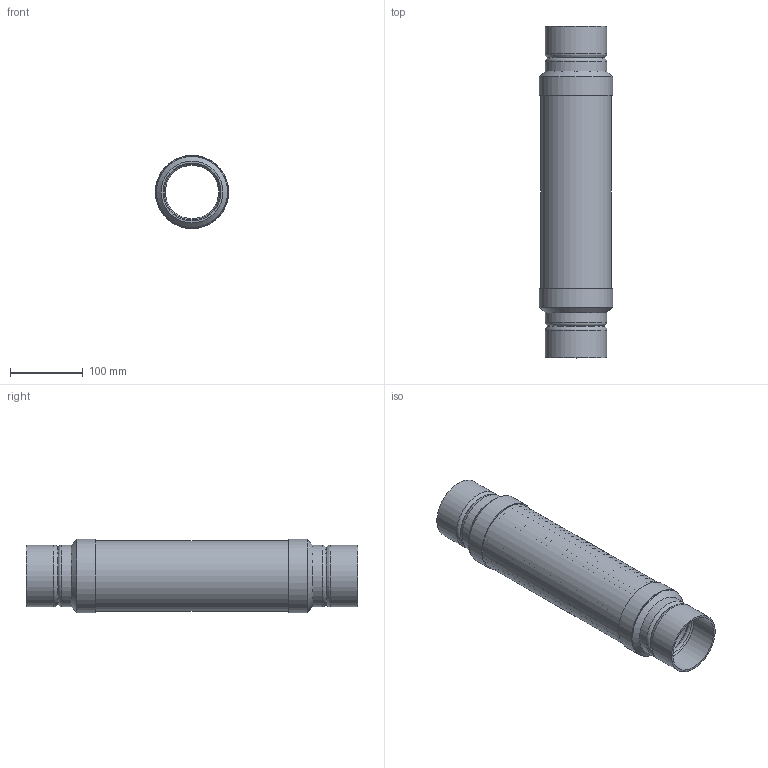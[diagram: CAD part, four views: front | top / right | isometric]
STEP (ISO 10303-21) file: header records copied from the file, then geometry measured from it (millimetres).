
FILE_DESCRIPTION((''),'2;1');
FILE_NAME('C:\2012_Work\Designs\CPSB\CPSB-3x18\CPSB-3x18.stp','2013-08-27T13:23:58',('KShiels'),(''),'Autodesk Inventor 2012','Autodesk Inventor 2012','');
FILE_SCHEMA(('AUTOMOTIVE_DESIGN { 1 0 10303 214 1 1 1 1 }'));
Length unit declared in the file: inch
Products named in the file (6): CPSB-3x18; CPSB-3x18_Welds; A-32710_3x18_CPSB_BRAID; A-32710_3x18_CPSB_BELLOWS; A-32710_3x18_CPSB_BRAID-COLLAR; A-32710_3x18_CPSB_GROOVED_NIPPLE
Assembly tree (7 placements, depth 2):
  CPSB-3x18
    CPSB-3x18_Welds
    A-32710_3x18_CPSB_BRAID
    A-32710_3x18_CPSB_BELLOWS
    A-32710_3x18_CPSB_BRAID-COLLAR  x2
    A-32710_3x18_CPSB_GROOVED_NIPPLE  x2
Bounding box: 100.76 x 457.2 x 100.76 mm (x, y, z)
Volume: 269190.4 mm3; surface area: 742037.2 mm2
Topology: 8 solids, 8 shells, 286 faces, 444 edges, 292 vertices
Faces by surface type: plane 134, torus 134, cylinder 16, cone 2
Full cylindrical faces by diameter (mm): 79.578 x4, 85.115 x6, 96.774 x1, 97.587 x3, 100.762 x2
Entity records: 5682 total; most frequent: DIRECTION 1114, CARTESIAN_POINT 831, AXIS2_PLACEMENT_3D 557, ORIENTED_EDGE 548, EDGE_LOOP 540, VERTEX_POINT 274, CIRCLE 274, EDGE_CURVE 274
